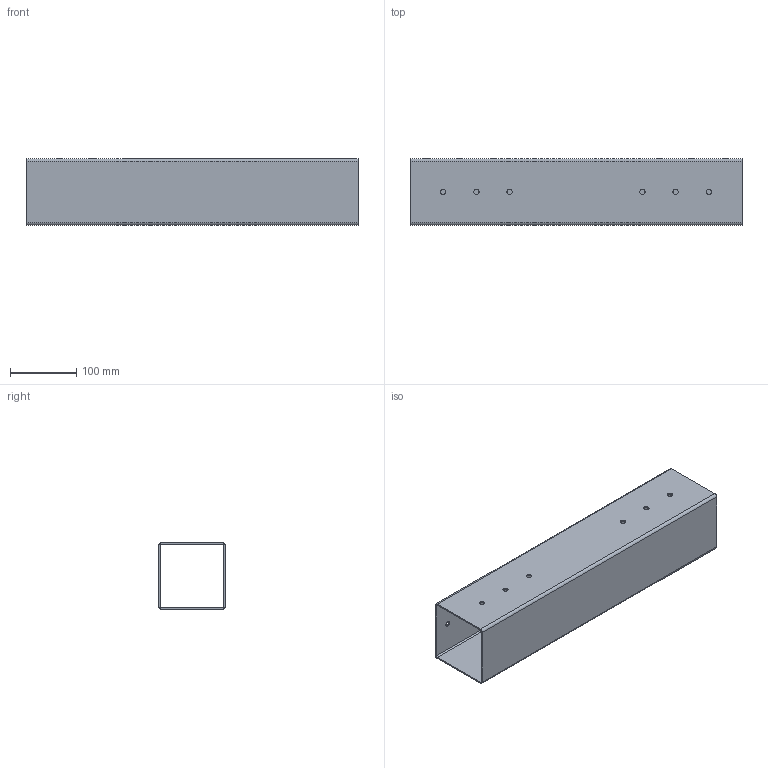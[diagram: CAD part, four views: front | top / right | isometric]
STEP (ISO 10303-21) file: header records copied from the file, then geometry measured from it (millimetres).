
FILE_DESCRIPTION(('STEP AP214'), '1');
FILE_NAME('Ïðîôèëü L = 500 ìì', '', ('UNSPECIFIED'), ('UNSPECIFIED'), 'C3D Converter', 'C3D Toolkit', '');
FILE_SCHEMA(('AUTOMOTIVE_DESIGN { 1 0 10303 214 3 1 1}'));
Length unit declared in the file: millimetre
Products named in the file (1): АКСЛ.298.402
Bounding box: 500 x 100 x 100 mm (x, y, z)
Volume: 385643.2 mm3; surface area: 387793.8 mm2
Topology: 1 solids, 1 shells, 30 faces, 84 edges, 56 vertices
Faces by surface type: cylinder 20, plane 10
Full cylindrical faces by diameter (mm): 8 x12
Entity records: 1015 total; most frequent: DIRECTION 174, CARTESIAN_POINT 159, ORIENTED_EDGE 144, EDGE_CURVE 72, AXIS2_PLACEMENT_3D 71, EDGE_LOOP 68, VERTEX_POINT 56, FACE_BOUND 44
